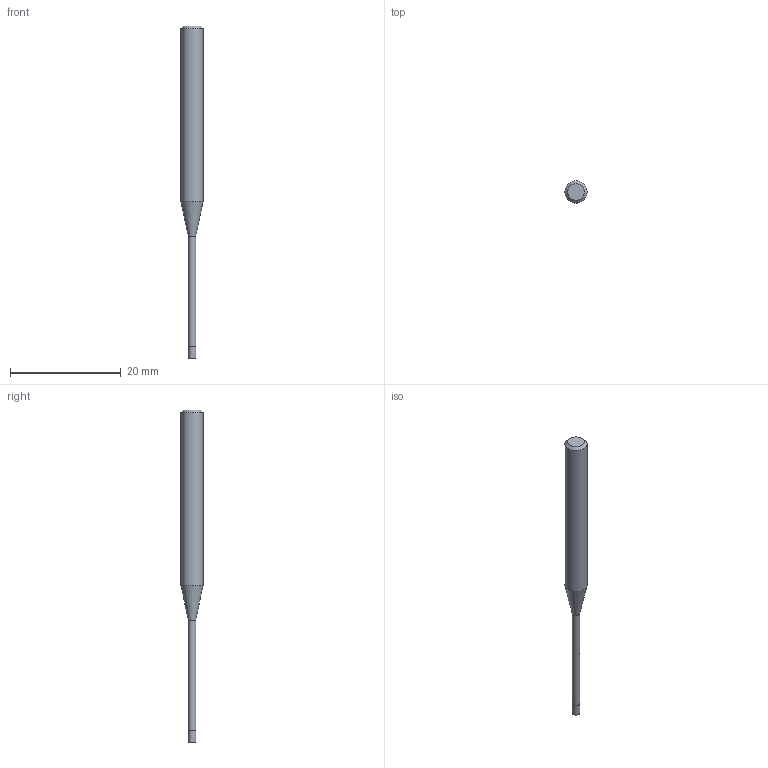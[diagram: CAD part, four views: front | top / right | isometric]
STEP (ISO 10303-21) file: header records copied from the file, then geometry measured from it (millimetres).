
FILE_DESCRIPTION((''),'2;1');
FILE_NAME('C:\Users\nsx150\AppData\Local\Temp\Mastercam 2021\17T8Q8S9EB\TEMP.step','2021-04-21T16:14:46',(''),(''),'STEP Write','Mastercam 2021 ... CNC Software, Inc.','');
FILE_SCHEMA(('AUTOMOTIVE_DESIGN'));
Length unit declared in the file: millimetre
Products named in the file (1): None
Bounding box: 4 x 4 x 60 mm (x, y, z)
Volume: 467.4 mm3; surface area: 559.4 mm2
Topology: 2 solids, 2 shells, 9 faces, 12 edges, 7 vertices
Faces by surface type: plane 4, cylinder 3, cone 2
Full cylindrical faces by diameter (mm): 1.35 x1, 1.4 x1, 4 x1
Entity records: 211 total; most frequent: DIRECTION 36, CARTESIAN_POINT 25, AXIS2_PLACEMENT_3D 18, ORIENTED_EDGE 14, EDGE_LOOP 14, STYLED_ITEM 12, ADVANCED_FACE 9, FACE_BOUND 8
